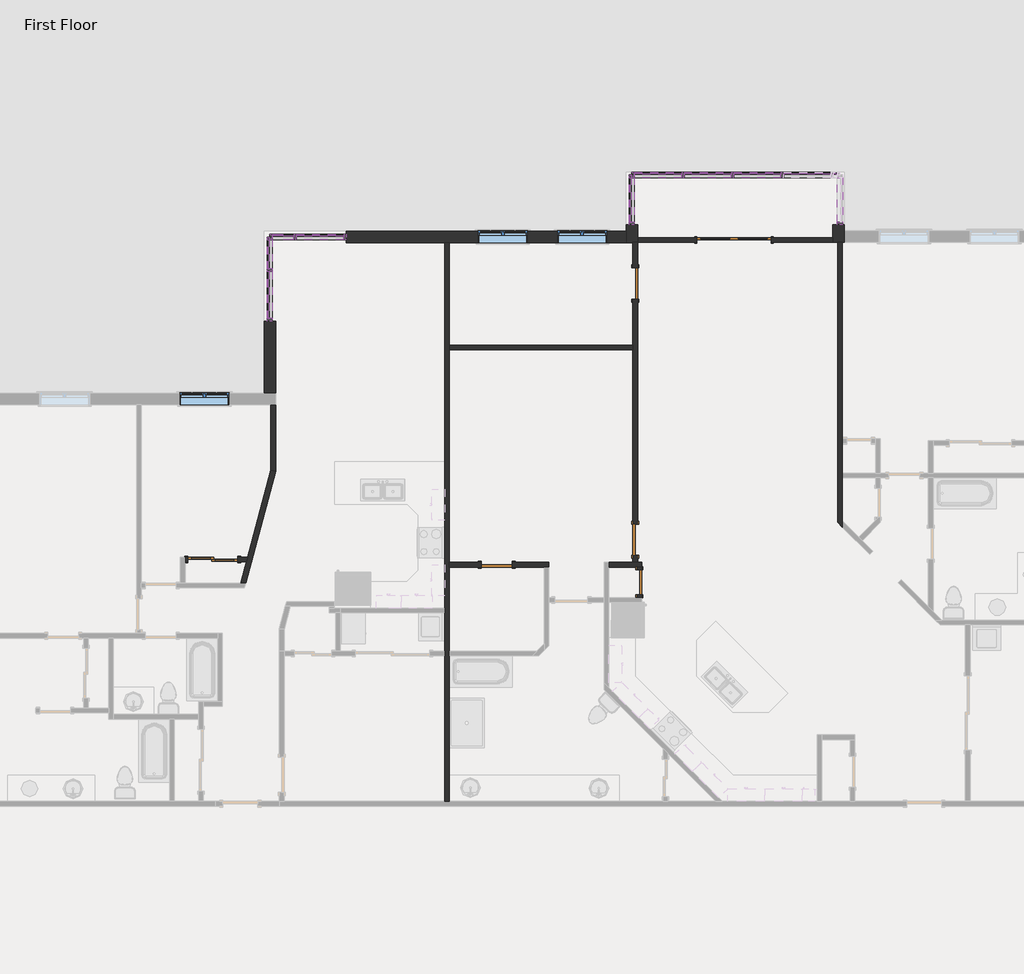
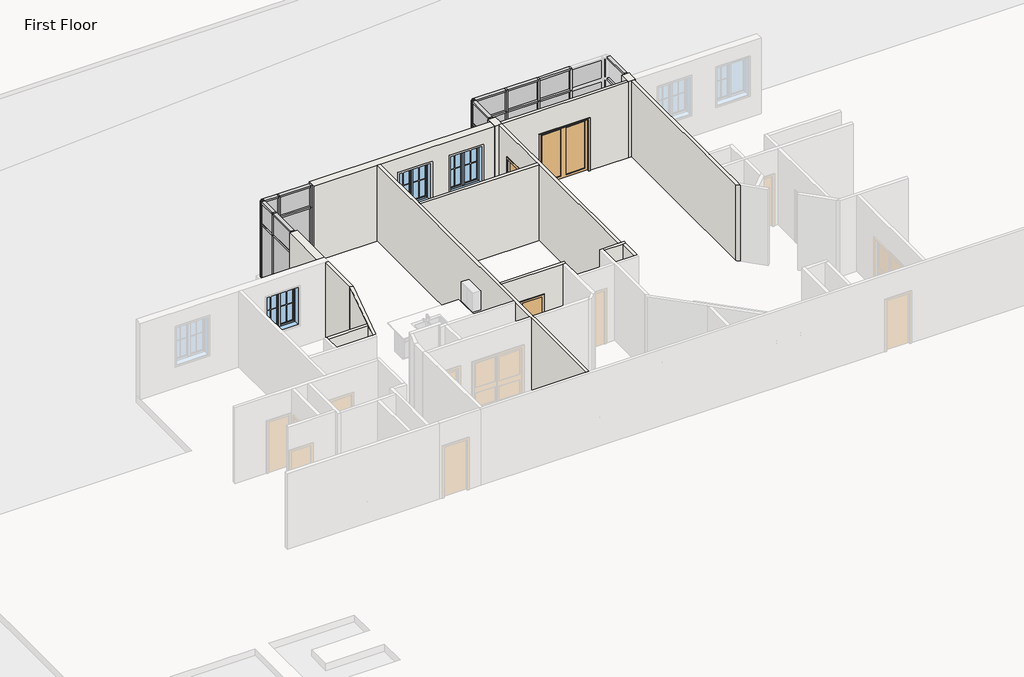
# One storey, part 9 of 17: 53 members, 20 plates, 15 walls, 6 doors, 3 windows.
"""IFC4 building model written with IfcOpenShell, lengths in millimetres."""

from ifc_helpers import new_model, si_unit, frame, origin, origin_with_axes, place, context, project, spatial, polyline, outline, extrude, faceted_brep, transform, mapped, element, save
from components import door_0a7806e9, door_e2285e44, door_d8f5dbb5, door_f2b275c1, door_900f836f, rectangular_mullion_rectangular_mullion_1_fa3625a1, rectangular_mullion_rectangular_mullion_1_7cbf0b94, rectangular_mullion_rectangular_mullion_1_6186cc23, rectangular_mullion_rectangular_mullion_1_049a2e78, rectangular_mullion_rectangular_mullion_1_a50b3cda, rectangular_mullion_rectangular_mullion_1_5cd4c5ac, rectangular_mullion_rectangular_mullion_1_13524bf9, rectangular_mullion_rectangular_mullion_1_a1888574, rectangular_mullion_rectangular_mullion_1_55d4f6ce, rectangular_mullion_rectangular_mullion_1_d8cc73e0, rectangular_mullion_rectangular_mullion_1_273a15f2, rectangular_mullion_rectangular_mullion_1_867fe1e1, system_panel_glazed_0ed27d1d, system_panel_glazed_134bacdb, system_panel_glazed_53e6f9fb, system_panel_glazed_cb820e14, system_panel_glazed_7c98c5cb, system_panel_glazed_dc3c0d95, system_panel_glazed_bae44e10, system_panel_glazed_9feb64c3, system_panel_glazed_53e3ec8b, system_panel_glazed_bdec29fe, system_panel_glazed_a1d2dedd, system_panel_glazed_37454f57, window_33528cc2

model = new_model("IFC4")

# Units and contexts
model_context = context("Model", 3, world=origin())
ifc_project = project(units=[si_unit("LENGTHUNIT", "METRE", prefix="MILLI")], contexts=[model_context])

# Site, building, storey
site = spatial("IfcSite", under=ifc_project)
building = spatial("IfcBuilding", under=site)
storey = spatial("IfcBuildingStorey", under=building, Name="First Floor", Elevation=0.0)

# Doors
placement = place(None, origin())
door_shape = door_0a7806e9(model_context)
element("IfcDoor", 1, ObjectType="Double-Glass 1 : 72\" x 82\"", at=placement, inside=storey, context=model_context, shape_type="MappedRepresentation", body=[
    mapped(door_shape, transform((29070.5311023, 16131.8552839, 0.0), x_axis=(1.0, 0.0, 0.0), y_axis=(0.0, 1.0, 0.0), z_axis=(0.0, 0.0, 1.0))),
])
door_2_shape = door_e2285e44(model_context)
element("IfcDoor", 2, ObjectType="Single-Flush : 24\" x 80\"", at=placement, inside=storey, context=model_context, shape_type="MappedRepresentation", body=[
    mapped(door_2_shape, transform((26745.480585, 7734.3572102, 0.0), x_axis=(0.0, 1.0, 0.0), y_axis=(-1.0, 0.0, 0.0), z_axis=(0.0, 0.0, 1.0))),
])
door_3_shape = door_d8f5dbb5(model_context)
element("IfcDoor", 3, ObjectType="Single-Flush : 30\" x 80\"", at=placement, inside=storey, context=model_context, shape_type="MappedRepresentation", body=[
    mapped(door_3_shape, transform((23246.1202044, 8168.006996, 0.0), x_axis=(-1.0, 0.0, 0.0), y_axis=(0.0, -1.0, 0.0), z_axis=(0.0, 0.0, 1.0))),
])
door_4_shape = door_f2b275c1(model_context)
element("IfcDoor", 4, ObjectType="Single-Flush : 30\" x 80\"", at=placement, inside=storey, context=model_context, shape_type="MappedRepresentation", body=[
    mapped(door_4_shape, transform((26645.8573571, 8777.606996, 0.0), x_axis=(0.0, -1.0, 0.0), y_axis=(1.0, 0.0, 0.0), z_axis=(0.0, 0.0, 1.0))),
])
element("IfcDoor", 5, ObjectType="Single-Flush : 30\" x 80\"", at=placement, inside=storey, context=model_context, shape_type="MappedRepresentation", body=[
    mapped(door_4_shape, transform((26645.8573571, 15067.4365339, 0.0), x_axis=(0.0, 1.0, 0.0), y_axis=(-1.0, 0.0, 0.0), z_axis=(0.0, 0.0, 1.0))),
])
door_5_shape = door_900f836f(model_context)
element("IfcDoor", 6, ObjectType="Sliding-Closet : 48\" x 80\"", at=placement, inside=storey, context=model_context, shape_type="MappedRepresentation", body=[
    mapped(door_5_shape, transform((16278.4083594, 8170.5576127, 0.0), x_axis=(1.0, 0.0, 0.0), y_axis=(0.0, 1.0, 0.0), z_axis=(0.0, 0.0, 1.0))),
])

# Members
rectangular_mullion_rectangular_mullion_1_shape = rectangular_mullion_rectangular_mullion_1_fa3625a1(model_context)
element("IfcMember", 7, ObjectType="Rectangular Mullion : Rectangular Mullion 1", at=placement, inside=storey, context=model_context, shape_type="MappedRepresentation", body=[
    mapped(rectangular_mullion_rectangular_mullion_1_shape, transform((18332.1198568, 16206.4791823, 3048.0), x_axis=(0.0, 0.0, 1.0), y_axis=(0.0, 1.0, 0.0), z_axis=(-1.0, 0.0, 0.0))),
])
element("IfcMember", 8, ObjectType="Rectangular Mullion : Rectangular Mullion 1", at=placement, inside=storey, context=model_context, shape_type="MappedRepresentation", body=[
    mapped(rectangular_mullion_rectangular_mullion_1_shape, transform((19487.8198571, 16206.4791823, 0.0), x_axis=(0.0, 0.0, -1.0), y_axis=(0.0, 1.0, 0.0), z_axis=(1.0, 0.0, 0.0))),
])
rectangular_mullion_rectangular_mullion_1_2_shape = rectangular_mullion_rectangular_mullion_1_7cbf0b94(model_context)
element("IfcMember", 9, ObjectType="Rectangular Mullion : Rectangular Mullion 1", at=placement, inside=storey, context=model_context, shape_type="MappedRepresentation", body=[
    mapped(rectangular_mullion_rectangular_mullion_1_2_shape, transform((18332.1198568, 16206.4791823, 2165.35), x_axis=(0.0, 0.0, 1.0), y_axis=(0.0, 1.0, 0.0), z_axis=(-1.0, 0.0, 0.0))),
])
rectangular_mullion_rectangular_mullion_1_3_shape = rectangular_mullion_rectangular_mullion_1_6186cc23(model_context)
element("IfcMember", 10, ObjectType="Rectangular Mullion : Rectangular Mullion 1", at=placement, inside=storey, context=model_context, shape_type="MappedRepresentation", body=[
    mapped(rectangular_mullion_rectangular_mullion_1_3_shape, transform((18300.3698568, 16206.4791823, 0.0), x_axis=(-1.0, 0.0, 0.0), y_axis=(0.0, 1.0, 0.0), z_axis=(0.0, 0.0, -1.0))),
])
rectangular_mullion_rectangular_mullion_1_4_shape = rectangular_mullion_rectangular_mullion_1_049a2e78(model_context)
element("IfcMember", 11, ObjectType="Rectangular Mullion : Rectangular Mullion 1", at=placement, inside=storey, context=model_context, shape_type="MappedRepresentation", body=[
    mapped(rectangular_mullion_rectangular_mullion_1_4_shape, transform((18300.3698568, 16206.4791823, 2165.35), x_axis=(-1.0, 0.0, 0.0), y_axis=(0.0, 1.0, 0.0), z_axis=(0.0, 0.0, -1.0))),
])
rectangular_mullion_rectangular_mullion_1_5_shape = rectangular_mullion_rectangular_mullion_1_a50b3cda(model_context)
element("IfcMember", 12, ObjectType="Rectangular Mullion : Rectangular Mullion 1", at=placement, inside=storey, context=model_context, shape_type="MappedRepresentation", body=[
    mapped(rectangular_mullion_rectangular_mullion_1_5_shape, transform((17678.8246608, 16206.4791823, 0.0), x_axis=(-1.0, 0.0, 0.0), y_axis=(0.0, 1.0, 0.0), z_axis=(0.0, 0.0, -1.0))),
])
rectangular_mullion_rectangular_mullion_1_6_shape = rectangular_mullion_rectangular_mullion_1_5cd4c5ac(model_context)
element("IfcMember", 13, ObjectType="Rectangular Mullion : Rectangular Mullion 1", at=placement, inside=storey, context=model_context, shape_type="MappedRepresentation", body=[
    mapped(rectangular_mullion_rectangular_mullion_1_6_shape, transform((17678.8246608, 16206.4791823, 2165.35), x_axis=(-1.0, 0.0, 0.0), y_axis=(0.0, 1.0, 0.0), z_axis=(0.0, 0.0, -1.0))),
])
element("IfcMember", 14, ObjectType="Rectangular Mullion : Rectangular Mullion 1", at=placement, inside=storey, context=model_context, shape_type="MappedRepresentation", body=[
    mapped(rectangular_mullion_rectangular_mullion_1_6_shape, transform((19551.3198571, 16206.4791823, 3048.0), x_axis=(1.0, 0.0, 0.0), y_axis=(0.0, 1.0, 0.0), z_axis=(0.0, 0.0, 1.0))),
])
element("IfcMember", 15, ObjectType="Rectangular Mullion : Rectangular Mullion 1", at=placement, inside=storey, context=model_context, shape_type="MappedRepresentation", body=[
    mapped(rectangular_mullion_rectangular_mullion_1_5_shape, transform((19551.3198571, 16206.4791823, 2165.35), x_axis=(1.0, 0.0, 0.0), y_axis=(0.0, 1.0, 0.0), z_axis=(0.0, 0.0, 1.0))),
])
element("IfcMember", 16, ObjectType="Rectangular Mullion : Rectangular Mullion 1", at=placement, inside=storey, context=model_context, shape_type="MappedRepresentation", body=[
    mapped(rectangular_mullion_rectangular_mullion_1_shape, transform((17678.8246608, 15365.3662252, 3048.0), x_axis=(0.0, 0.0, 1.0), y_axis=(1.0, 0.0, 0.0), z_axis=(0.0, 1.0, 0.0))),
])
element("IfcMember", 17, ObjectType="Rectangular Mullion : Rectangular Mullion 1", at=placement, inside=storey, context=model_context, shape_type="MappedRepresentation", body=[
    mapped(rectangular_mullion_rectangular_mullion_1_shape, transform((27780.9198574, 17730.4791823, 3048.0), x_axis=(0.0, 0.0, 1.0), y_axis=(0.0, -1.0, 0.0), z_axis=(1.0, 0.0, 0.0))),
])
element("IfcMember", 18, ObjectType="Rectangular Mullion : Rectangular Mullion 1", at=placement, inside=storey, context=model_context, shape_type="MappedRepresentation", body=[
    mapped(rectangular_mullion_rectangular_mullion_1_shape, transform((29000.1198574, 17730.4791823, 3048.0), x_axis=(0.0, 0.0, 1.0), y_axis=(0.0, -1.0, 0.0), z_axis=(1.0, 0.0, 0.0))),
])
element("IfcMember", 19, ObjectType="Rectangular Mullion : Rectangular Mullion 1", at=placement, inside=storey, context=model_context, shape_type="MappedRepresentation", body=[
    mapped(rectangular_mullion_rectangular_mullion_1_shape, transform((30219.3198574, 17730.4791823, 3048.0), x_axis=(0.0, 0.0, 1.0), y_axis=(0.0, -1.0, 0.0), z_axis=(1.0, 0.0, 0.0))),
])
element("IfcMember", 20, ObjectType="Rectangular Mullion : Rectangular Mullion 1", at=placement, inside=storey, context=model_context, shape_type="MappedRepresentation", body=[
    mapped(rectangular_mullion_rectangular_mullion_1_shape, transform((17678.8246608, 14209.6662249, 0.0), x_axis=(0.0, 0.0, -1.0), y_axis=(1.0, 0.0, 0.0), z_axis=(0.0, -1.0, 0.0))),
])
element("IfcMember", 21, ObjectType="Rectangular Mullion : Rectangular Mullion 1", at=placement, inside=storey, context=model_context, shape_type="MappedRepresentation", body=[
    mapped(rectangular_mullion_rectangular_mullion_1_shape, transform((26625.2198571, 17730.4791823, 0.0), x_axis=(0.0, 0.0, -1.0), y_axis=(0.0, -1.0, 0.0), z_axis=(-1.0, 0.0, 0.0))),
])
element("IfcMember", 22, ObjectType="Rectangular Mullion : Rectangular Mullion 1", at=placement, inside=storey, context=model_context, shape_type="MappedRepresentation", body=[
    mapped(rectangular_mullion_rectangular_mullion_1_shape, transform((27844.4198574, 17730.4791823, 0.0), x_axis=(0.0, 0.0, -1.0), y_axis=(0.0, -1.0, 0.0), z_axis=(-1.0, 0.0, 0.0))),
])
element("IfcMember", 23, ObjectType="Rectangular Mullion : Rectangular Mullion 1", at=placement, inside=storey, context=model_context, shape_type="MappedRepresentation", body=[
    mapped(rectangular_mullion_rectangular_mullion_1_shape, transform((29063.6198574, 17730.4791823, 0.0), x_axis=(0.0, 0.0, -1.0), y_axis=(0.0, -1.0, 0.0), z_axis=(-1.0, 0.0, 0.0))),
])
element("IfcMember", 24, ObjectType="Rectangular Mullion : Rectangular Mullion 1", at=placement, inside=storey, context=model_context, shape_type="MappedRepresentation", body=[
    mapped(rectangular_mullion_rectangular_mullion_1_shape, transform((30282.8198574, 17730.4791823, 0.0), x_axis=(0.0, 0.0, -1.0), y_axis=(0.0, -1.0, 0.0), z_axis=(-1.0, 0.0, 0.0))),
])
element("IfcMember", 25, ObjectType="Rectangular Mullion : Rectangular Mullion 1", at=placement, inside=storey, context=model_context, shape_type="MappedRepresentation", body=[
    mapped(rectangular_mullion_rectangular_mullion_1_5_shape, transform((17678.8246608, 16206.4791823, 0.0), x_axis=(0.0, 1.0, 0.0), y_axis=(1.0, 0.0, 0.0), z_axis=(0.0, 0.0, -1.0))),
])
element("IfcMember", 26, ObjectType="Rectangular Mullion : Rectangular Mullion 1", at=placement, inside=storey, context=model_context, shape_type="MappedRepresentation", body=[
    mapped(rectangular_mullion_rectangular_mullion_1_5_shape, transform((26561.7198571, 17730.4791823, 0.0), x_axis=(0.0, 1.0, 0.0), y_axis=(1.0, 0.0, 0.0), z_axis=(0.0, 0.0, -1.0))),
])
element("IfcMember", 27, ObjectType="Rectangular Mullion : Rectangular Mullion 1", at=placement, inside=storey, context=model_context, shape_type="MappedRepresentation", body=[
    mapped(rectangular_mullion_rectangular_mullion_1_5_shape, transform((31667.447822, 16511.2791823, 0.0), x_axis=(0.0, -1.0, 0.0), y_axis=(-1.0, 0.0, 0.0), z_axis=(0.0, 0.0, -1.0))),
])
element("IfcMember", 28, ObjectType="Rectangular Mullion : Rectangular Mullion 1", at=placement, inside=storey, context=model_context, shape_type="MappedRepresentation", body=[
    mapped(rectangular_mullion_rectangular_mullion_1_6_shape, transform((17678.8246608, 16206.4791823, 2165.35), x_axis=(0.0, 1.0, 0.0), y_axis=(1.0, 0.0, 0.0), z_axis=(0.0, 0.0, -1.0))),
])
element("IfcMember", 29, ObjectType="Rectangular Mullion : Rectangular Mullion 1", at=placement, inside=storey, context=model_context, shape_type="MappedRepresentation", body=[
    mapped(rectangular_mullion_rectangular_mullion_1_6_shape, transform((26561.7198571, 17730.4791823, 2165.35), x_axis=(0.0, 1.0, 0.0), y_axis=(1.0, 0.0, 0.0), z_axis=(0.0, 0.0, -1.0))),
])
element("IfcMember", 30, ObjectType="Rectangular Mullion : Rectangular Mullion 1", at=placement, inside=storey, context=model_context, shape_type="MappedRepresentation", body=[
    mapped(rectangular_mullion_rectangular_mullion_1_6_shape, transform((31667.447822, 16511.2791823, 2165.35), x_axis=(0.0, -1.0, 0.0), y_axis=(-1.0, 0.0, 0.0), z_axis=(0.0, 0.0, -1.0))),
])
element("IfcMember", 31, ObjectType="Rectangular Mullion : Rectangular Mullion 1", at=placement, inside=storey, context=model_context, shape_type="MappedRepresentation", body=[
    mapped(rectangular_mullion_rectangular_mullion_1_6_shape, transform((17678.8246608, 14146.1662249, 3048.0), x_axis=(0.0, -1.0, 0.0), y_axis=(1.0, 0.0, 0.0), z_axis=(0.0, 0.0, 1.0))),
])
element("IfcMember", 32, ObjectType="Rectangular Mullion : Rectangular Mullion 1", at=placement, inside=storey, context=model_context, shape_type="MappedRepresentation", body=[
    mapped(rectangular_mullion_rectangular_mullion_1_6_shape, transform((26561.7198571, 16511.2791823, 3048.0), x_axis=(0.0, -1.0, 0.0), y_axis=(1.0, 0.0, 0.0), z_axis=(0.0, 0.0, 1.0))),
])
element("IfcMember", 33, ObjectType="Rectangular Mullion : Rectangular Mullion 1", at=placement, inside=storey, context=model_context, shape_type="MappedRepresentation", body=[
    mapped(rectangular_mullion_rectangular_mullion_1_6_shape, transform((26561.7198571, 17730.4791823, 3048.0), x_axis=(-1.0, 0.0, 0.0), y_axis=(0.0, -1.0, 0.0), z_axis=(0.0, 0.0, 1.0))),
])
element("IfcMember", 34, ObjectType="Rectangular Mullion : Rectangular Mullion 1", at=placement, inside=storey, context=model_context, shape_type="MappedRepresentation", body=[
    mapped(rectangular_mullion_rectangular_mullion_1_5_shape, transform((17678.8246608, 14146.1662249, 2165.35), x_axis=(0.0, -1.0, 0.0), y_axis=(1.0, 0.0, 0.0), z_axis=(0.0, 0.0, 1.0))),
])
element("IfcMember", 35, ObjectType="Rectangular Mullion : Rectangular Mullion 1", at=placement, inside=storey, context=model_context, shape_type="MappedRepresentation", body=[
    mapped(rectangular_mullion_rectangular_mullion_1_5_shape, transform((26561.7198571, 16511.2791823, 2165.35), x_axis=(0.0, -1.0, 0.0), y_axis=(1.0, 0.0, 0.0), z_axis=(0.0, 0.0, 1.0))),
])
element("IfcMember", 36, ObjectType="Rectangular Mullion : Rectangular Mullion 1", at=placement, inside=storey, context=model_context, shape_type="MappedRepresentation", body=[
    mapped(rectangular_mullion_rectangular_mullion_1_5_shape, transform((26561.7198571, 17730.4791823, 2165.35), x_axis=(-1.0, 0.0, 0.0), y_axis=(0.0, -1.0, 0.0), z_axis=(0.0, 0.0, 1.0))),
])
element("IfcMember", 37, ObjectType="Rectangular Mullion : Rectangular Mullion 1", at=placement, inside=storey, context=model_context, shape_type="MappedRepresentation", body=[
    mapped(rectangular_mullion_rectangular_mullion_1_2_shape, transform((17678.8246608, 15365.3662252, 2165.35), x_axis=(0.0, 0.0, 1.0), y_axis=(1.0, 0.0, 0.0), z_axis=(0.0, 1.0, 0.0))),
])
element("IfcMember", 38, ObjectType="Rectangular Mullion : Rectangular Mullion 1", at=placement, inside=storey, context=model_context, shape_type="MappedRepresentation", body=[
    mapped(rectangular_mullion_rectangular_mullion_1_2_shape, transform((27780.9198574, 17730.4791823, 2165.35), x_axis=(0.0, 0.0, 1.0), y_axis=(0.0, -1.0, 0.0), z_axis=(1.0, 0.0, 0.0))),
])
element("IfcMember", 39, ObjectType="Rectangular Mullion : Rectangular Mullion 1", at=placement, inside=storey, context=model_context, shape_type="MappedRepresentation", body=[
    mapped(rectangular_mullion_rectangular_mullion_1_2_shape, transform((29000.1198574, 17730.4791823, 2165.35), x_axis=(0.0, 0.0, 1.0), y_axis=(0.0, -1.0, 0.0), z_axis=(1.0, 0.0, 0.0))),
])
element("IfcMember", 40, ObjectType="Rectangular Mullion : Rectangular Mullion 1", at=placement, inside=storey, context=model_context, shape_type="MappedRepresentation", body=[
    mapped(rectangular_mullion_rectangular_mullion_1_2_shape, transform((30219.3198574, 17730.4791823, 2165.35), x_axis=(0.0, 0.0, 1.0), y_axis=(0.0, -1.0, 0.0), z_axis=(1.0, 0.0, 0.0))),
])
element("IfcMember", 41, ObjectType="Rectangular Mullion : Rectangular Mullion 1", at=placement, inside=storey, context=model_context, shape_type="MappedRepresentation", body=[
    mapped(rectangular_mullion_rectangular_mullion_1_3_shape, transform((17678.8246608, 15397.1162252, 0.0), x_axis=(0.0, 1.0, 0.0), y_axis=(1.0, 0.0, 0.0), z_axis=(0.0, 0.0, -1.0))),
])
element("IfcMember", 42, ObjectType="Rectangular Mullion : Rectangular Mullion 1", at=placement, inside=storey, context=model_context, shape_type="MappedRepresentation", body=[
    mapped(rectangular_mullion_rectangular_mullion_1_3_shape, transform((27812.6698574, 17730.4791823, 0.0), x_axis=(1.0, 0.0, 0.0), y_axis=(0.0, -1.0, 0.0), z_axis=(0.0, 0.0, -1.0))),
])
element("IfcMember", 43, ObjectType="Rectangular Mullion : Rectangular Mullion 1", at=placement, inside=storey, context=model_context, shape_type="MappedRepresentation", body=[
    mapped(rectangular_mullion_rectangular_mullion_1_3_shape, transform((29031.8698574, 17730.4791823, 0.0), x_axis=(1.0, 0.0, 0.0), y_axis=(0.0, -1.0, 0.0), z_axis=(0.0, 0.0, -1.0))),
])
element("IfcMember", 44, ObjectType="Rectangular Mullion : Rectangular Mullion 1", at=placement, inside=storey, context=model_context, shape_type="MappedRepresentation", body=[
    mapped(rectangular_mullion_rectangular_mullion_1_3_shape, transform((30251.0698574, 17730.4791823, 0.0), x_axis=(1.0, 0.0, 0.0), y_axis=(0.0, -1.0, 0.0), z_axis=(0.0, 0.0, -1.0))),
])
element("IfcMember", 45, ObjectType="Rectangular Mullion : Rectangular Mullion 1", at=placement, inside=storey, context=model_context, shape_type="MappedRepresentation", body=[
    mapped(rectangular_mullion_rectangular_mullion_1_4_shape, transform((17678.8246608, 15397.1162252, 2165.35), x_axis=(0.0, 1.0, 0.0), y_axis=(1.0, 0.0, 0.0), z_axis=(0.0, 0.0, -1.0))),
])
element("IfcMember", 46, ObjectType="Rectangular Mullion : Rectangular Mullion 1", at=placement, inside=storey, context=model_context, shape_type="MappedRepresentation", body=[
    mapped(rectangular_mullion_rectangular_mullion_1_4_shape, transform((27812.6698574, 17730.4791823, 2165.35), x_axis=(1.0, 0.0, 0.0), y_axis=(0.0, -1.0, 0.0), z_axis=(0.0, 0.0, -1.0))),
])
element("IfcMember", 47, ObjectType="Rectangular Mullion : Rectangular Mullion 1", at=placement, inside=storey, context=model_context, shape_type="MappedRepresentation", body=[
    mapped(rectangular_mullion_rectangular_mullion_1_4_shape, transform((29031.8698574, 17730.4791823, 2165.35), x_axis=(1.0, 0.0, 0.0), y_axis=(0.0, -1.0, 0.0), z_axis=(0.0, 0.0, -1.0))),
])
element("IfcMember", 48, ObjectType="Rectangular Mullion : Rectangular Mullion 1", at=placement, inside=storey, context=model_context, shape_type="MappedRepresentation", body=[
    mapped(rectangular_mullion_rectangular_mullion_1_4_shape, transform((30251.0698574, 17730.4791823, 2165.35), x_axis=(1.0, 0.0, 0.0), y_axis=(0.0, -1.0, 0.0), z_axis=(0.0, 0.0, -1.0))),
])
rectangular_mullion_rectangular_mullion_1_7_shape = rectangular_mullion_rectangular_mullion_1_13524bf9(model_context)
element("IfcMember", 49, ObjectType="Rectangular Mullion : Rectangular Mullion 1", at=placement, inside=storey, context=model_context, shape_type="MappedRepresentation", body=[
    mapped(rectangular_mullion_rectangular_mullion_1_7_shape, transform((17678.8246608, 16142.9791823, 3048.0), x_axis=(0.0, 0.0, 1.0), y_axis=(1.0, 0.0, 0.0), z_axis=(0.0, 1.0, 0.0))),
])
element("IfcMember", 50, ObjectType="Rectangular Mullion : Rectangular Mullion 1", at=placement, inside=storey, context=model_context, shape_type="MappedRepresentation", body=[
    mapped(rectangular_mullion_rectangular_mullion_1_7_shape, transform((17678.8246608, 15428.8662252, 0.0), x_axis=(0.0, 0.0, -1.0), y_axis=(1.0, 0.0, 0.0), z_axis=(0.0, -1.0, 0.0))),
])
rectangular_mullion_rectangular_mullion_1_8_shape = rectangular_mullion_rectangular_mullion_1_a1888574(model_context)
element("IfcMember", 51, ObjectType="Rectangular Mullion : Rectangular Mullion 1", at=placement, inside=storey, context=model_context, shape_type="MappedRepresentation", body=[
    mapped(rectangular_mullion_rectangular_mullion_1_8_shape, transform((17678.8246608, 16142.9791823, 2165.35), x_axis=(0.0, 0.0, 1.0), y_axis=(1.0, 0.0, 0.0), z_axis=(0.0, 1.0, 0.0))),
])
rectangular_mullion_rectangular_mullion_1_9_shape = rectangular_mullion_rectangular_mullion_1_55d4f6ce(model_context)
element("IfcMember", 52, ObjectType="Rectangular Mullion : Rectangular Mullion 1", at=placement, inside=storey, context=model_context, shape_type="MappedRepresentation", body=[
    mapped(rectangular_mullion_rectangular_mullion_1_9_shape, transform((17742.3246608, 16206.4791823, 3048.0), x_axis=(0.0, 0.0, 1.0), y_axis=(0.0, 1.0, 0.0), z_axis=(-1.0, 0.0, 0.0))),
])
element("IfcMember", 53, ObjectType="Rectangular Mullion : Rectangular Mullion 1", at=placement, inside=storey, context=model_context, shape_type="MappedRepresentation", body=[
    mapped(rectangular_mullion_rectangular_mullion_1_9_shape, transform((18268.6198568, 16206.4791823, 0.0), x_axis=(0.0, 0.0, -1.0), y_axis=(0.0, 1.0, 0.0), z_axis=(1.0, 0.0, 0.0))),
])
rectangular_mullion_rectangular_mullion_1_10_shape = rectangular_mullion_rectangular_mullion_1_d8cc73e0(model_context)
element("IfcMember", 54, ObjectType="Rectangular Mullion : Rectangular Mullion 1", at=placement, inside=storey, context=model_context, shape_type="MappedRepresentation", body=[
    mapped(rectangular_mullion_rectangular_mullion_1_10_shape, transform((17742.3246608, 16206.4791823, 2165.35), x_axis=(0.0, 0.0, 1.0), y_axis=(0.0, 1.0, 0.0), z_axis=(-1.0, 0.0, 0.0))),
])
rectangular_mullion_rectangular_mullion_1_11_shape = rectangular_mullion_rectangular_mullion_1_273a15f2(model_context)
element("IfcMember", 55, ObjectType="Rectangular Mullion : Rectangular Mullion 1", at=placement, inside=storey, context=model_context, shape_type="MappedRepresentation", body=[
    mapped(rectangular_mullion_rectangular_mullion_1_11_shape, transform((26561.7198571, 17666.9791823, 3048.0), x_axis=(0.0, 0.0, 1.0), y_axis=(1.0, 0.0, 0.0), z_axis=(0.0, 1.0, 0.0))),
])
element("IfcMember", 56, ObjectType="Rectangular Mullion : Rectangular Mullion 1", at=placement, inside=storey, context=model_context, shape_type="MappedRepresentation", body=[
    mapped(rectangular_mullion_rectangular_mullion_1_11_shape, transform((31667.447822, 16574.7791823, 3048.0), x_axis=(0.0, 0.0, 1.0), y_axis=(-1.0, 0.0, 0.0), z_axis=(0.0, -1.0, 0.0))),
])
element("IfcMember", 57, ObjectType="Rectangular Mullion : Rectangular Mullion 1", at=placement, inside=storey, context=model_context, shape_type="MappedRepresentation", body=[
    mapped(rectangular_mullion_rectangular_mullion_1_11_shape, transform((26561.7198571, 16574.7791823, 0.0), x_axis=(0.0, 0.0, -1.0), y_axis=(1.0, 0.0, 0.0), z_axis=(0.0, -1.0, 0.0))),
])
rectangular_mullion_rectangular_mullion_1_12_shape = rectangular_mullion_rectangular_mullion_1_867fe1e1(model_context)
element("IfcMember", 58, ObjectType="Rectangular Mullion : Rectangular Mullion 1", at=placement, inside=storey, context=model_context, shape_type="MappedRepresentation", body=[
    mapped(rectangular_mullion_rectangular_mullion_1_12_shape, transform((26561.7198571, 17666.9791823, 2165.35), x_axis=(0.0, 0.0, 1.0), y_axis=(1.0, 0.0, 0.0), z_axis=(0.0, 1.0, 0.0))),
])
element("IfcMember", 59, ObjectType="Rectangular Mullion : Rectangular Mullion 1", at=placement, inside=storey, context=model_context, shape_type="MappedRepresentation", body=[
    mapped(rectangular_mullion_rectangular_mullion_1_12_shape, transform((31667.447822, 16574.7791823, 2165.35), x_axis=(0.0, 0.0, 1.0), y_axis=(-1.0, 0.0, 0.0), z_axis=(0.0, -1.0, 0.0))),
])

# Plates
system_panel_glazed_shape = system_panel_glazed_0ed27d1d(model_context)
element("IfcPlate", 60, ObjectType="System Panel : Glazed", at=placement, inside=storey, context=model_context, shape_type="MappedRepresentation", body=[
    mapped(system_panel_glazed_shape, transform((18909.969857, 16206.4791823, 63.5), x_axis=(-1.0, 0.0, 0.0), y_axis=(0.0, -1.0, 0.0), z_axis=(0.0, 0.0, 1.0))),
])
system_panel_glazed_2_shape = system_panel_glazed_134bacdb(model_context)
element("IfcPlate", 61, ObjectType="System Panel : Glazed", at=placement, inside=storey, context=model_context, shape_type="MappedRepresentation", body=[
    mapped(system_panel_glazed_2_shape, transform((18909.969857, 16206.4791823, 2197.1), x_axis=(-1.0, 0.0, 0.0), y_axis=(0.0, -1.0, 0.0), z_axis=(0.0, 0.0, 1.0))),
])
system_panel_glazed_3_shape = system_panel_glazed_53e6f9fb(model_context)
element("IfcPlate", 62, ObjectType="System Panel : Glazed", at=placement, inside=storey, context=model_context, shape_type="MappedRepresentation", body=[
    mapped(system_panel_glazed_3_shape, transform((17678.8246608, 14787.5162251, 63.5), x_axis=(0.0, 1.0, 0.0), y_axis=(-1.0, 0.0, 0.0), z_axis=(0.0, 0.0, 1.0))),
])
element("IfcPlate", 63, ObjectType="System Panel : Glazed", at=placement, inside=storey, context=model_context, shape_type="MappedRepresentation", body=[
    mapped(system_panel_glazed_3_shape, transform((27203.0698573, 17730.4791823, 63.5), x_axis=(1.0, 0.0, 0.0), y_axis=(0.0, 1.0, 0.0), z_axis=(0.0, 0.0, 1.0))),
])
element("IfcPlate", 64, ObjectType="System Panel : Glazed", at=placement, inside=storey, context=model_context, shape_type="MappedRepresentation", body=[
    mapped(system_panel_glazed_3_shape, transform((28422.2698574, 17730.4791823, 63.5), x_axis=(1.0, 0.0, 0.0), y_axis=(0.0, 1.0, 0.0), z_axis=(0.0, 0.0, 1.0))),
])
element("IfcPlate", 65, ObjectType="System Panel : Glazed", at=placement, inside=storey, context=model_context, shape_type="MappedRepresentation", body=[
    mapped(system_panel_glazed_3_shape, transform((29641.4698574, 17730.4791823, 63.5), x_axis=(1.0, 0.0, 0.0), y_axis=(0.0, 1.0, 0.0), z_axis=(0.0, 0.0, 1.0))),
])
element("IfcPlate", 66, ObjectType="System Panel : Glazed", at=placement, inside=storey, context=model_context, shape_type="MappedRepresentation", body=[
    mapped(system_panel_glazed_3_shape, transform((30860.6698574, 17730.4791823, 63.5), x_axis=(1.0, 0.0, 0.0), y_axis=(0.0, 1.0, 0.0), z_axis=(0.0, 0.0, 1.0))),
])
system_panel_glazed_4_shape = system_panel_glazed_cb820e14(model_context)
element("IfcPlate", 67, ObjectType="System Panel : Glazed", at=placement, inside=storey, context=model_context, shape_type="MappedRepresentation", body=[
    mapped(system_panel_glazed_4_shape, transform((17678.8246608, 14787.5162251, 2197.1), x_axis=(0.0, 1.0, 0.0), y_axis=(-1.0, 0.0, 0.0), z_axis=(0.0, 0.0, 1.0))),
])
element("IfcPlate", 68, ObjectType="System Panel : Glazed", at=placement, inside=storey, context=model_context, shape_type="MappedRepresentation", body=[
    mapped(system_panel_glazed_4_shape, transform((27203.0698573, 17730.4791823, 2197.1), x_axis=(1.0, 0.0, 0.0), y_axis=(0.0, 1.0, 0.0), z_axis=(0.0, 0.0, 1.0))),
])
element("IfcPlate", 69, ObjectType="System Panel : Glazed", at=placement, inside=storey, context=model_context, shape_type="MappedRepresentation", body=[
    mapped(system_panel_glazed_4_shape, transform((28422.2698574, 17730.4791823, 2197.1), x_axis=(1.0, 0.0, 0.0), y_axis=(0.0, 1.0, 0.0), z_axis=(0.0, 0.0, 1.0))),
])
element("IfcPlate", 70, ObjectType="System Panel : Glazed", at=placement, inside=storey, context=model_context, shape_type="MappedRepresentation", body=[
    mapped(system_panel_glazed_4_shape, transform((29641.4698574, 17730.4791823, 2197.1), x_axis=(1.0, 0.0, 0.0), y_axis=(0.0, 1.0, 0.0), z_axis=(0.0, 0.0, 1.0))),
])
element("IfcPlate", 71, ObjectType="System Panel : Glazed", at=placement, inside=storey, context=model_context, shape_type="MappedRepresentation", body=[
    mapped(system_panel_glazed_4_shape, transform((30860.6698574, 17730.4791823, 2197.1), x_axis=(1.0, 0.0, 0.0), y_axis=(0.0, 1.0, 0.0), z_axis=(0.0, 0.0, 1.0))),
])
system_panel_glazed_5_shape = system_panel_glazed_7c98c5cb(model_context)
element("IfcPlate", 72, ObjectType="System Panel : Glazed", at=placement, inside=storey, context=model_context, shape_type="MappedRepresentation", body=[
    mapped(system_panel_glazed_5_shape, transform((17678.8246608, 15785.9227038, 63.5), x_axis=(0.0, 1.0, 0.0), y_axis=(-1.0, 0.0, 0.0), z_axis=(0.0, 0.0, 1.0))),
])
system_panel_glazed_6_shape = system_panel_glazed_dc3c0d95(model_context)
element("IfcPlate", 73, ObjectType="System Panel : Glazed", at=placement, inside=storey, context=model_context, shape_type="MappedRepresentation", body=[
    mapped(system_panel_glazed_6_shape, transform((17678.8246608, 15785.9227038, 2197.1), x_axis=(0.0, 1.0, 0.0), y_axis=(-1.0, 0.0, 0.0), z_axis=(0.0, 0.0, 1.0))),
])
system_panel_glazed_7_shape = system_panel_glazed_bae44e10(model_context)
element("IfcPlate", 74, ObjectType="System Panel : Glazed", at=placement, inside=storey, context=model_context, shape_type="MappedRepresentation", body=[
    mapped(system_panel_glazed_7_shape, transform((18005.4722588, 16206.4791823, 63.5), x_axis=(-1.0, 0.0, 0.0), y_axis=(0.0, -1.0, 0.0), z_axis=(0.0, 0.0, 1.0))),
])
system_panel_glazed_8_shape = system_panel_glazed_9feb64c3(model_context)
element("IfcPlate", 75, ObjectType="System Panel : Glazed", at=placement, inside=storey, context=model_context, shape_type="MappedRepresentation", body=[
    mapped(system_panel_glazed_8_shape, transform((18005.4722588, 16206.4791823, 2197.1), x_axis=(-1.0, 0.0, 0.0), y_axis=(0.0, -1.0, 0.0), z_axis=(0.0, 0.0, 1.0))),
])
system_panel_glazed_9_shape = system_panel_glazed_53e3ec8b(model_context)
element("IfcPlate", 76, ObjectType="System Panel : Glazed", at=placement, inside=storey, context=model_context, shape_type="MappedRepresentation", body=[
    mapped(system_panel_glazed_9_shape, transform((26561.7198571, 17120.8791823, 63.5), x_axis=(0.0, 1.0, 0.0), y_axis=(-1.0, 0.0, 0.0), z_axis=(0.0, 0.0, 1.0))),
])
system_panel_glazed_10_shape = system_panel_glazed_bdec29fe(model_context)
element("IfcPlate", 77, ObjectType="System Panel : Glazed", at=placement, inside=storey, context=model_context, shape_type="MappedRepresentation", body=[
    mapped(system_panel_glazed_10_shape, transform((26561.7198571, 17120.8791823, 2197.1), x_axis=(0.0, 1.0, 0.0), y_axis=(-1.0, 0.0, 0.0), z_axis=(0.0, 0.0, 1.0))),
])
system_panel_glazed_11_shape = system_panel_glazed_a1d2dedd(model_context)
element("IfcPlate", 78, ObjectType="System Panel : Glazed", at=placement, inside=storey, context=model_context, shape_type="MappedRepresentation", body=[
    mapped(system_panel_glazed_11_shape, transform((31552.9838397, 17730.4791823, 63.5), x_axis=(1.0, 0.0, 0.0), y_axis=(0.0, 1.0, 0.0), z_axis=(0.0, 0.0, 1.0))),
])
system_panel_glazed_12_shape = system_panel_glazed_37454f57(model_context)
element("IfcPlate", 79, ObjectType="System Panel : Glazed", at=placement, inside=storey, context=model_context, shape_type="MappedRepresentation", body=[
    mapped(system_panel_glazed_12_shape, transform((31552.9838397, 17730.4791823, 2197.1), x_axis=(1.0, 0.0, 0.0), y_axis=(0.0, 1.0, 0.0), z_axis=(0.0, 0.0, 1.0))),
])

# Walls
element("IfcWall", 80, ObjectType="Exterior - Brick on Wood Stud", at=placement, inside=storey, context=model_context, shape_type="Brep", body=[
    faceted_brep([(31777.7798474, 16077.0865339, 0.0), (31777.7798474, 16359.6615339, 0.0), (31777.7798474, 16511.2791823, 0.0), (31777.7798474, 16511.2791823, 3048.0), (31777.7798474, 16359.6615339, 3048.0), (31777.7798474, 16077.0865339, 3048.0), (31495.2048474, 16077.0865339, 0.0), (31495.2048474, 16077.0865339, 3048.0), (31495.2048474, 16191.3865339, 3048.0), (31495.2048474, 16511.2791823, 3048.0), (31495.2048474, 16511.2791823, 0.0), (31495.2048474, 16191.3865339, 0.0), (31724.597822, 16077.0865339, 0.0), (31610.297822, 16077.0865339, 0.0), (31610.297822, 16077.0865339, 3048.0), (31724.597822, 16077.0865339, 3048.0)], [[[0, 1, 2, 3, 4, 5]], [[6, 7, 8, 9, 10, 11]], [[2, 1, 0, 12, 13, 6, 11, 10]], [[3, 2, 10, 9]], [[5, 4, 3, 9, 8, 7, 14, 15]], [[0, 5, 15, 14, 7, 6, 13, 12]]]),
])
element("IfcWall", 81, ObjectType="Exterior - Brick on Wood Stud", at=placement, inside=storey, context=model_context, shape_type="Brep", body=[
    faceted_brep([(26420.4323571, 16511.2791823, 0.0), (26420.4323571, 16347.7666823, 0.0), (26420.4323571, 16065.1916823, 0.0), (26420.4323571, 16065.1916823, 3048.0), (26420.4323571, 16347.7666823, 3048.0), (26420.4323571, 16511.2791823, 3048.0), (26703.0073571, 16511.2791823, 0.0), (26703.0073571, 16511.2791823, 3048.0), (26703.0073571, 16191.3865339, 3048.0), (26703.0073571, 16077.0865339, 3048.0), (26703.0073571, 16065.1916823, 3048.0), (26703.0073571, 16065.1916823, 0.0), (26703.0073571, 16077.0865339, 0.0), (26703.0073571, 16191.3865339, 0.0)], [[[0, 1, 2, 3, 4, 5]], [[6, 7, 8, 9, 10, 11, 12, 13]], [[2, 1, 0, 6, 13, 12, 11]], [[5, 4, 3, 10, 9, 8, 7]], [[0, 5, 7, 6]], [[3, 2, 11, 10]]]),
])
element("IfcWall", 82, ObjectType="Exterior - Brick on Wood Stud", at=placement, inside=storey, context=model_context, shape_type="Brep", body=[
    faceted_brep([(26420.4323571, 16347.7666823, 0.0), (19551.3198571, 16347.7666823, 0.0), (19551.3198571, 16347.7666823, 3048.0), (26420.4323571, 16347.7666823, 3048.0), (25952.1198571, 16347.7666823, 2438.4), (24732.9198571, 16347.7666823, 2438.4), (24732.9198571, 16347.7666823, 914.4), (25952.1198571, 16347.7666823, 914.4), (24004.2573571, 16347.7666823, 2438.4), (22785.0573571, 16347.7666823, 2438.4), (22785.0573571, 16347.7666823, 914.4), (24004.2573571, 16347.7666823, 914.4), (26420.4323571, 16065.1916823, 0.0), (26420.4323571, 16065.1916823, 3048.0), (22080.2073571, 16065.1916823, 3048.0), (21965.9073571, 16065.1916823, 3048.0), (19551.3198571, 16065.1916823, 3048.0), (19551.3198571, 16065.1916823, 0.0), (21965.9073571, 16065.1916823, 0.0), (22080.2073571, 16065.1916823, 0.0), (25952.1198571, 16065.1916823, 2438.4), (25952.1198571, 16065.1916823, 914.4), (24732.9198571, 16065.1916823, 914.4), (24732.9198571, 16065.1916823, 2438.4), (24004.2573571, 16065.1916823, 2438.4), (24004.2573571, 16065.1916823, 914.4), (22785.0573571, 16065.1916823, 914.4), (22785.0573571, 16065.1916823, 2438.4)], [[[0, 1, 2, 3], [4, 5, 6, 7], [8, 9, 10, 11]], [[12, 13, 14, 15, 16, 17, 18, 19], [20, 21, 22, 23], [24, 25, 26, 27]], [[1, 0, 12, 19, 18, 17]], [[2, 1, 17, 16]], [[3, 2, 16, 15, 14, 13]], [[21, 20, 4, 7]], [[22, 21, 7, 6]], [[23, 22, 6, 5]], [[20, 23, 5, 4]], [[25, 24, 8, 11]], [[26, 25, 11, 10]], [[27, 26, 10, 9]], [[24, 27, 9, 8]], [[0, 3, 13, 12]]]),
])
element("IfcWall", 83, ObjectType="Exterior - Brick on Wood Stud", at=placement, inside=storey, context=model_context, shape_type="SweptSolid", body=[
    extrude(outline(polyline([(17537.5371608, 12370.2302849), (17537.5371608, 14146.1662249), (17820.1121608, 14146.1662249), (17820.1121608, 12370.2302849), (17537.5371608, 12370.2302849)])), origin_with_axes(), (0.0, 0.0, 1.0), 3048.0),
])
element("IfcWall", 84, ObjectType="Interior - 4 1/2\" Partition", at=placement, inside=storey, context=model_context, shape_type="Brep", body=[
    faceted_brep([(22080.2073571, 2359.3591714, 0.0), (22080.2073571, 5928.8880642, 0.0), (22080.2073571, 6043.1880642, 0.0), (22080.2073571, 8110.856996, 0.0), (22080.2073571, 8225.156996, 0.0), (22080.2073571, 13435.7238431, 0.0), (22080.2073571, 13550.0238431, 0.0), (22080.2073571, 16065.1916823, 0.0), (22080.2073571, 16065.1916823, 3048.0), (22080.2073571, 13550.0238431, 3048.0), (22080.2073571, 13435.7238431, 3048.0), (22080.2073571, 8225.156996, 3048.0), (22080.2073571, 8110.856996, 3048.0), (22080.2073571, 6043.1880642, 3048.0), (22080.2073571, 5928.8880642, 3048.0), (22080.2073571, 2359.3591714, 3048.0), (21965.9073571, 2359.3591714, 0.0), (21965.9073571, 2359.3591714, 3048.0), (21965.9073571, 5928.8880642, 3048.0), (21965.9073571, 6043.1880642, 3048.0), (21965.9073571, 6988.905075, 3048.0), (21965.9073571, 7103.205075, 3048.0), (21965.9073571, 16065.1916823, 3048.0), (21965.9073571, 16065.1916823, 0.0), (21965.9073571, 7103.205075, 0.0), (21965.9073571, 6988.905075, 0.0), (21965.9073571, 6043.1880642, 0.0), (21965.9073571, 5928.8880642, 0.0)], [[[0, 1, 2, 3, 4, 5, 6, 7, 8, 9, 10, 11, 12, 13, 14, 15]], [[16, 17, 18, 19, 20, 21, 22, 23, 24, 25, 26, 27]], [[7, 6, 5, 4, 3, 2, 1, 0, 16, 27, 26, 25, 24, 23]], [[15, 14, 13, 12, 11, 10, 9, 8, 22, 21, 20, 19, 18, 17]], [[0, 15, 17, 16]], [[8, 7, 23, 22]]]),
])
element("IfcWall", 85, ObjectType="Interior - 4 1/2\" Partition", at=placement, inside=storey, context=model_context, shape_type="Brep", body=[
    faceted_brep([(31724.597822, 9089.3944324, 0.0), (31724.597822, 9251.0390425, 0.0), (31724.597822, 10300.8410099, 0.0), (31724.597822, 10415.1410099, 0.0), (31724.597822, 11149.7238431, 0.0), (31724.597822, 11264.0238431, 0.0), (31724.597822, 16077.0865339, 0.0), (31724.597822, 16077.0865339, 3048.0), (31724.597822, 11264.0238431, 3048.0), (31724.597822, 11149.7238431, 3048.0), (31724.597822, 10415.1410099, 3048.0), (31724.597822, 10300.8410099, 3048.0), (31724.597822, 9251.0390425, 3048.0), (31724.597822, 9089.3944324, 3048.0), (31610.297822, 9203.6944324, 0.0), (31610.297822, 9203.6944324, 3048.0), (31610.297822, 16077.0865339, 3048.0), (31610.297822, 16077.0865339, 0.0)], [[[0, 1, 2, 3, 4, 5, 6, 7, 8, 9, 10, 11, 12, 13]], [[14, 15, 16, 17]], [[6, 5, 4, 3, 2, 1, 0, 14, 17]], [[13, 12, 11, 10, 9, 8, 7, 16, 15]], [[0, 13, 15, 14]], [[7, 6, 17, 16]]]),
])
element("IfcWall", 86, ObjectType="Interior - 4 1/2\" Partition", at=placement, inside=storey, context=model_context, shape_type="SweptSolid", body=[
    extrude(outline(polyline([(2082.8, 29984.9311023), (0.0, 29984.9311023), (0.0, 31495.2048474), (3048.0, 31495.2048474), (3048.0, 26703.0073571), (0.0, 26703.0073571), (0.0, 28156.1311023), (2082.8, 28156.1311023), (2082.8, 29984.9311023)])), frame((0.0, 16077.0865339, 0.0), z_axis=(0.0, 1.0, 0.0), x_axis=(0.0, 0.0, 1.0)), (0.0, 0.0, 1.0), 114.3),
])
element("IfcWall", 87, ObjectType="Interior - 4 1/2\" Partition", at=placement, inside=storey, context=model_context, shape_type="SweptSolid", body=[
    extrude(outline(polyline([(26588.7073571, 13435.7238431), (22080.2073571, 13435.7238431), (22080.2073571, 13550.0238431), (26588.7073571, 13550.0238431), (26588.7073571, 13435.7238431)])), origin_with_axes(), (0.0, 0.0, 1.0), 3048.0),
])
element("IfcWall", 88, ObjectType="Interior - 4 1/2\" Partition", at=placement, inside=storey, context=model_context, shape_type="Brep", body=[
    faceted_brep([(26703.0073571, 15448.4365339, 2032.0), (26703.0073571, 15448.4365339, 0.0), (26703.0073571, 16077.0865339, 0.0), (26703.0073571, 16077.0865339, 3048.0), (26703.0073571, 8225.156996, 3048.0), (26703.0073571, 8225.156996, 0.0), (26703.0073571, 8396.606996, 0.0), (26703.0073571, 8396.606996, 2032.0), (26703.0073571, 9158.606996, 2032.0), (26703.0073571, 9158.606996, 0.0), (26703.0073571, 14686.4365339, 0.0), (26703.0073571, 14686.4365339, 2032.0), (26588.7073571, 16077.0865339, 0.0), (26588.7073571, 15448.4365339, 0.0), (26588.7073571, 15448.4365339, 2032.0), (26588.7073571, 14686.4365339, 2032.0), (26588.7073571, 14686.4365339, 0.0), (26588.7073571, 13550.0238431, 0.0), (26588.7073571, 13435.7238431, 0.0), (26588.7073571, 9158.606996, 0.0), (26588.7073571, 9158.606996, 2032.0), (26588.7073571, 8396.606996, 2032.0), (26588.7073571, 8396.606996, 0.0), (26588.7073571, 8225.156996, 0.0), (26588.7073571, 8225.156996, 3048.0), (26588.7073571, 13435.7238431, 3048.0), (26588.7073571, 13550.0238431, 3048.0), (26588.7073571, 16077.0865339, 3048.0)], [[[0, 1, 2, 3, 4, 5, 6, 7, 8, 9, 10, 11]], [[12, 13, 14, 15, 16, 17, 18, 19, 20, 21, 22, 23, 24, 25, 26, 27]], [[23, 22, 6, 5]], [[10, 9, 19, 18, 17, 16]], [[2, 1, 13, 12]], [[4, 3, 27, 26, 25, 24]], [[7, 6, 22, 21]], [[8, 7, 21, 20]], [[9, 8, 20, 19]], [[14, 13, 1, 0]], [[15, 14, 0, 11]], [[16, 15, 11, 10]], [[5, 4, 24, 23]], [[3, 2, 12, 27]]]),
])
element("IfcWall", 89, ObjectType="Interior - 4 1/2\" Partition", at=placement, inside=storey, context=model_context, shape_type="Brep", body=[
    faceted_brep([(26802.630585, 8225.156996, 0.0), (26703.0073571, 8225.156996, 0.0), (26588.7073571, 8225.156996, 0.0), (25993.50388, 8225.156996, 0.0), (25993.50388, 8225.156996, 3048.0), (26588.7073571, 8225.156996, 3048.0), (26703.0073571, 8225.156996, 3048.0), (26802.630585, 8225.156996, 3048.0), (26802.630585, 8110.856996, 0.0), (26802.630585, 8110.856996, 3048.0), (26688.330585, 8110.856996, 3048.0), (25993.50388, 8110.856996, 3048.0), (25993.50388, 8110.856996, 0.0), (26688.330585, 8110.856996, 0.0)], [[[0, 1, 2, 3, 4, 5, 6, 7]], [[8, 9, 10, 11, 12, 13]], [[3, 2, 1, 0, 8, 13, 12]], [[7, 6, 5, 4, 11, 10, 9]], [[0, 7, 9, 8]], [[4, 3, 12, 11]]]),
])
element("IfcWall", 90, ObjectType="Interior - 4 1/2\" Partition", at=placement, inside=storey, context=model_context, shape_type="SweptSolid", body=[
    extrude(outline(polyline([(8110.856996, 0.0), (8039.1572102, 0.0), (8039.1572102, 2032.0), (7429.5572102, 2032.0), (7429.5572102, 0.0), (7357.8574244, 0.0), (7357.8574244, 3048.0), (8110.856996, 3048.0), (8110.856996, 0.0)])), frame((26688.330585, 0.0, 0.0), z_axis=(1.0, 0.0, 0.0), x_axis=(0.0, 1.0, 0.0)), (0.0, 0.0, 1.0), 114.3),
])
element("IfcWall", 91, ObjectType="Interior - 4 1/2\" Partition", at=placement, inside=storey, context=model_context, shape_type="Brep", body=[
    faceted_brep([(22080.2073571, 8110.856996, 0.0), (22865.1202044, 8110.856996, 0.0), (22865.1202044, 8110.856996, 2032.0), (23627.1202044, 8110.856996, 2032.0), (23627.1202044, 8110.856996, 0.0), (24412.0330518, 8110.856996, 0.0), (24526.3330518, 8110.856996, 0.0), (24526.3330518, 8110.856996, 3048.0), (24412.0330518, 8110.856996, 3048.0), (22080.2073571, 8110.856996, 3048.0), (22865.1202044, 8225.156996, 2032.0), (22865.1202044, 8225.156996, 0.0), (22080.2073571, 8225.156996, 0.0), (22080.2073571, 8225.156996, 3048.0), (24526.3330518, 8225.156996, 3048.0), (24526.3330518, 8225.156996, 0.0), (23627.1202044, 8225.156996, 0.0), (23627.1202044, 8225.156996, 2032.0)], [[[0, 1, 2, 3, 4, 5, 6, 7, 8, 9]], [[10, 11, 12, 13, 14, 15, 16, 17]], [[16, 15, 6, 5, 4]], [[12, 11, 1, 0]], [[9, 8, 7, 14, 13]], [[2, 1, 11, 10]], [[3, 2, 10, 17]], [[4, 3, 17, 16]], [[7, 6, 15, 14]], [[0, 9, 13, 12]]]),
])
element("IfcWall", 92, ObjectType="Interior - 4 1/2\" Partition", at=placement, inside=storey, context=model_context, shape_type="Brep", body=[
    faceted_brep([(17705.8121608, 10479.3402406, 0.0), (17136.5185639, 8354.7076127, 0.0), (17105.8919712, 8240.4076127, 0.0), (16964.2147043, 7711.6608545, 0.0), (16964.2147043, 7711.6608545, 3048.0), (17105.8919712, 8240.4076127, 3048.0), (17136.5185639, 8354.7076127, 3048.0), (17705.8121608, 10479.3402406, 3048.0), (17820.1121608, 10464.2923601, 0.0), (17820.1121608, 10464.2923601, 3048.0), (17082.5467718, 7711.6608545, 3048.0), (17082.5467718, 7711.6608545, 0.0)], [[[0, 1, 2, 3, 4, 5, 6, 7]], [[8, 9, 10, 11]], [[3, 2, 1, 0, 8, 11]], [[7, 6, 5, 4, 10, 9]], [[0, 7, 9, 8]], [[4, 3, 11, 10]]]),
])
element("IfcWall", 93, ObjectType="Interior - 4 1/2\" Partition", at=placement, inside=storey, context=model_context, shape_type="Brep", body=[
    faceted_brep([(16888.0083594, 8240.4076127, 2032.0), (16888.0083594, 8240.4076127, 0.0), (17105.8919712, 8240.4076127, 0.0), (17105.8919712, 8240.4076127, 3048.0), (15598.9583594, 8240.4076127, 3048.0), (15598.9583594, 8240.4076127, 0.0), (15668.8083594, 8240.4076127, 0.0), (15668.8083594, 8240.4076127, 2032.0), (17136.5185639, 8354.7076127, 0.0), (16888.0083594, 8354.7076127, 0.0), (16888.0083594, 8354.7076127, 2032.0), (15668.8083594, 8354.7076127, 2032.0), (15668.8083594, 8354.7076127, 0.0), (15598.9583594, 8354.7076127, 0.0), (15598.9583594, 8354.7076127, 3048.0), (17136.5185639, 8354.7076127, 3048.0)], [[[0, 1, 2, 3, 4, 5, 6, 7]], [[8, 9, 10, 11, 12, 13, 14, 15]], [[6, 5, 13, 12]], [[2, 1, 9, 8]], [[4, 3, 15, 14]], [[12, 11, 7, 6]], [[10, 9, 1, 0]], [[11, 10, 0, 7]], [[5, 4, 14, 13]], [[3, 2, 8, 15]]]),
])
element("IfcWall", 94, ObjectType="Interior - 4 1/2\" Partition", at=placement, inside=storey, context=model_context, shape_type="SweptSolid", body=[
    extrude(outline(polyline([(17705.8121608, 10479.3402406), (17705.8121608, 12087.6552849), (17820.1121608, 12087.6552849), (17820.1121608, 10464.2923601), (17705.8121608, 10479.3402406)])), origin_with_axes(), (0.0, 0.0, 1.0), 3048.0),
])

# Windows
window_shape = window_33528cc2(model_context)
element("IfcWindow", 95, ObjectType="Window-Casement-Double : 48\" x 60\"", at=placement, inside=storey, context=model_context, shape_type="MappedRepresentation", body=[
    mapped(window_shape, transform((25342.5198571, 16206.4791823, 0.0), x_axis=(1.0, 0.0, 0.0), y_axis=(0.0, 1.0, 0.0), z_axis=(0.0, 0.0, 1.0))),
])
element("IfcWindow", 96, ObjectType="Window-Casement-Double : 48\" x 60\"", at=placement, inside=storey, context=model_context, shape_type="MappedRepresentation", body=[
    mapped(window_shape, transform((23394.6573571, 16206.4791823, 0.0), x_axis=(1.0, 0.0, 0.0), y_axis=(0.0, 1.0, 0.0), z_axis=(0.0, 0.0, 1.0))),
])
element("IfcWindow", 97, ObjectType="Window-Casement-Double : 48\" x 60\"", at=placement, inside=storey, context=model_context, shape_type="MappedRepresentation", body=[
    mapped(window_shape, transform((16073.4460512, 12228.9427849, 0.0), x_axis=(1.0, 0.0, 0.0), y_axis=(0.0, 1.0, 0.0), z_axis=(0.0, 0.0, 1.0))),
])

save(model, "model.ifc")
